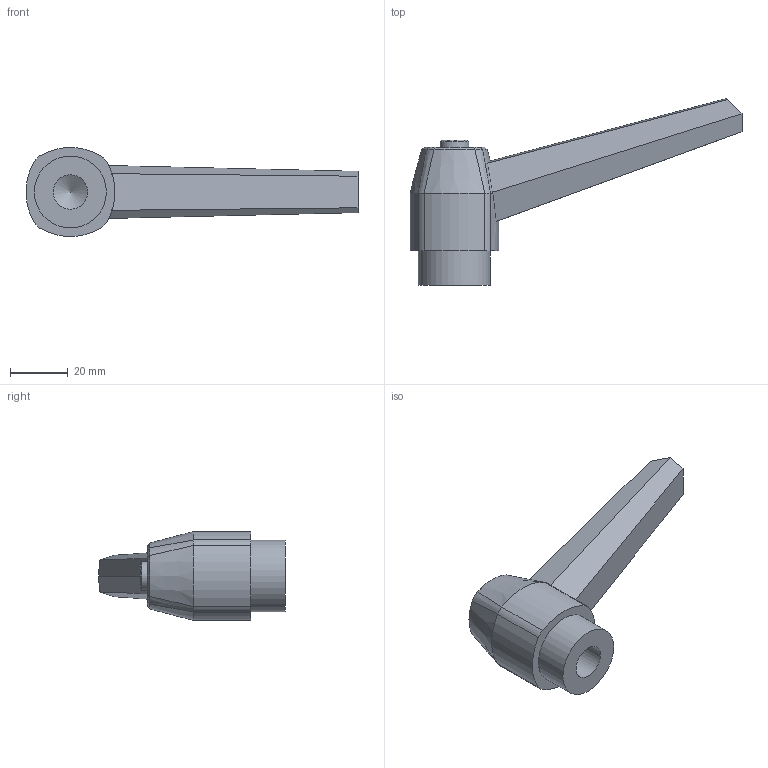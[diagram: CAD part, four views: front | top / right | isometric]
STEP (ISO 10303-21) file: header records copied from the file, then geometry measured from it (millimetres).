
FILE_DESCRIPTION (( 'STEP AP214' ), '1' );
FILE_NAME ('500-100-M14-SW.step', '2022-04-13T07:18:43', ( '' ), ( '' ), 'SwSTEP 2.0', 'SolidWorks 2019', '' );
FILE_SCHEMA (( 'AUTOMOTIVE_DESIGN' ));
Length unit declared in the file: millimetre
Products named in the file (1): 500-100-M14-SW
Bounding box: 115.44 x 64.99 x 30.88 mm (x, y, z)
Volume: 48976 mm3; surface area: 11708.6 mm2
Topology: 1 solids, 1 shells, 51 faces, 123 edges, 78 vertices
Faces by surface type: plane 21, cylinder 12, cone 10, bspline 8
Full cylindrical faces by diameter (mm): 10 x1, 12 x2, 25 x1
Entity records: 1664 total; most frequent: CARTESIAN_POINT 569, ORIENTED_EDGE 232, DIRECTION 182, EDGE_CURVE 116, VERTEX_POINT 77, AXIS2_PLACEMENT_3D 74, EDGE_LOOP 61, FACE_OUTER_BOUND 55
